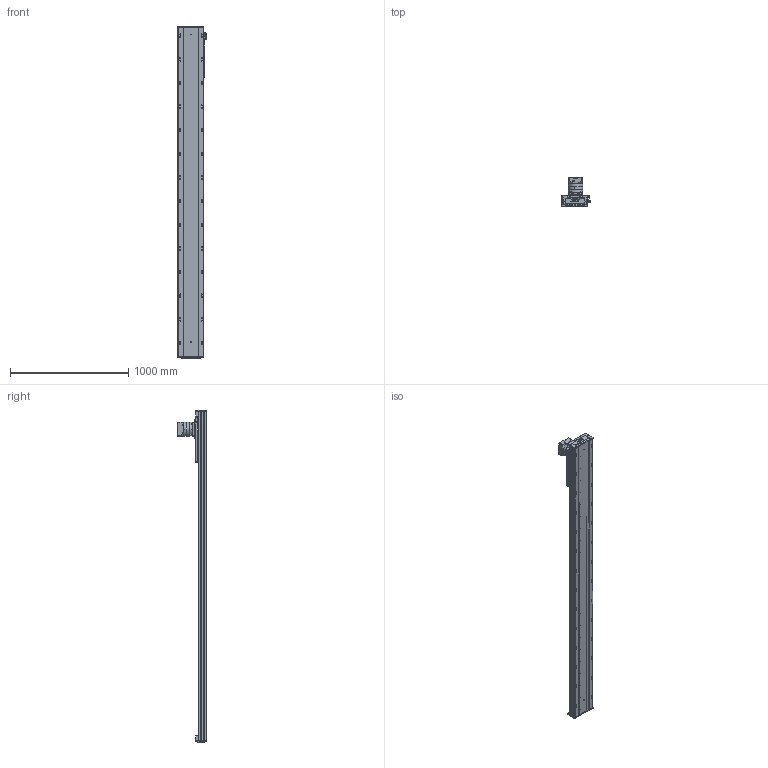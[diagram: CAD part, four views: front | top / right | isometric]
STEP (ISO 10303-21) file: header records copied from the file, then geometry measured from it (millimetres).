
FILE_DESCRIPTION (( 'STEP AP203' ), '1' );
FILE_NAME ('RY220-C-300-UK.SLDASM_2300.step', '2022-08-01T06:00:02', ( '' ), ( '' ), 'SwSTEP 2.0', 'SolidWorks 2016', '' );
FILE_SCHEMA (( 'CONFIG_CONTROL_DESIGN' ));
Length unit declared in the file: millimetre
Products named in the file (10): RY220喘沭賑輸; RY140直线电机感应器674光电安装座; PF115L1-S2-22-58-110-145-M8; 覜茼ん674; 滅袉蝶輸ㄗG412隅秶ㄘ; RY220-齿条模组电机安装板; RY220喘沭綴裔啣; RY220-C-300-UK.SLDASM_2300; RY220菁釱MK-300_2300; RY220喘沭俋离覜茼え
Assembly tree (12 placements, depth 2):
  RY220-C-300-UK.SLDASM_2300
    RY220菁釱MK-300_2300
    RY220喘沭賑輸
    RY220-齿条模组电机安装板
    PF115L1-S2-22-58-110-145-M8
    RY220喘沭綴裔啣  x2
    滅袉蝶輸ㄗG412隅秶ㄘ  x2
    RY140直线电机感应器674光电安装座
    覜茼ん674  x2
    RY220喘沭俋离覜茼え
Bounding box: 247 x 244.5 x 2809 mm (x, y, z)
Volume: 19392669.5 mm3; surface area: 3960421 mm2
Topology: 18 solids, 26 shells, 2274 faces, 6117 edges, 3831 vertices
Faces by surface type: cylinder 1091, plane 751, cone 270, bspline 162
Entity records: 72133 total; most frequent: CARTESIAN_POINT 19593, DIRECTION 10843, ORIENTED_EDGE 10594, EDGE_CURVE 5297, AXIS2_PLACEMENT_3D 4149, VERTEX_POINT 3457, EDGE_LOOP 2646, LINE 2545
